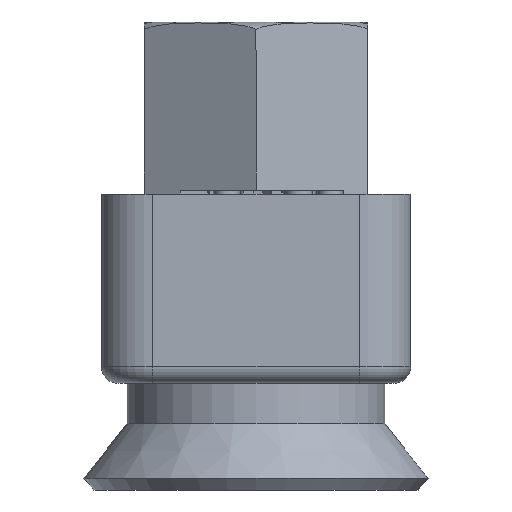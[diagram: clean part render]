
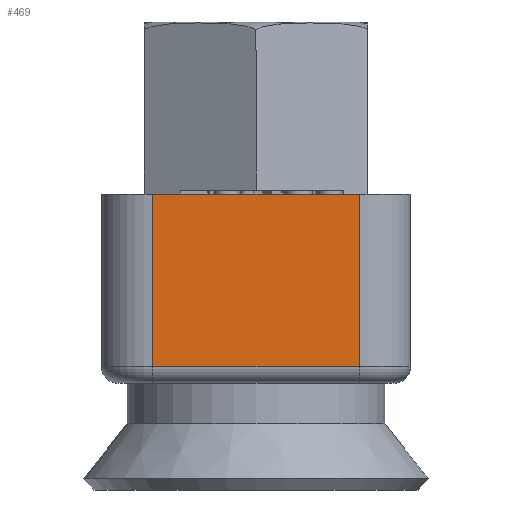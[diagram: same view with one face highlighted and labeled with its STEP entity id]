
A CAD part, left-side view. The second image highlights one B-rep face of the part: STEP entity #469.
In plain terms, the highlighted planar face has unit normal (-1, 0, 0).
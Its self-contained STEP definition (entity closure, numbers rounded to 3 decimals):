
#469 = ADVANCED_FACE( '', ( #986 ), #987, .F. );
#986 = FACE_OUTER_BOUND( '', #1617, .T. );
#987 = PLANE( '', #1618 );
#1617 = EDGE_LOOP( '', ( #3157, #3158, #3159, #3160 ) );
#1618 = AXIS2_PLACEMENT_3D( '', #3161, #3162, #3163 );
#3157 = ORIENTED_EDGE( '', *, *, #4014, .T. );
#3158 = ORIENTED_EDGE( '', *, *, #4020, .T. );
#3159 = ORIENTED_EDGE( '', *, *, #3911, .F. );
#3160 = ORIENTED_EDGE( '', *, *, #4075, .F. );
#3161 = CARTESIAN_POINT( '', ( -29., 6., -0.9 ) );
#3162 = DIRECTION( '', ( 1., 0., 0. ) );
#3163 = DIRECTION( '', ( 0., 0., -1. ) );
#3911 = EDGE_CURVE( '', #4682, #4683, #4684, .T. );
#4014 = EDGE_CURVE( '', #4827, #4286, #4828, .T. );
#4020 = EDGE_CURVE( '', #4286, #4683, #4834, .T. );
#4075 = EDGE_CURVE( '', #4827, #4682, #4900, .T. );
#4286 = VERTEX_POINT( '', #5241 );
#4682 = VERTEX_POINT( '', #6332 );
#4683 = VERTEX_POINT( '', #6333 );
#4684 = LINE( '', #6334, #6335 );
#4827 = VERTEX_POINT( '', #6663 );
#4828 = LINE( '', #6664, #6665 );
#4834 = LINE( '', #6672, #6673 );
#4900 = LINE( '', #6843, #6844 );
#5241 = CARTESIAN_POINT( '', ( -29., 6., -10.9 ) );
#6332 = CARTESIAN_POINT( '', ( -29., -6., -0.9 ) );
#6333 = CARTESIAN_POINT( '', ( -29., -6., -10.9 ) );
#6334 = CARTESIAN_POINT( '', ( -29., -6., -0.9 ) );
#6335 = VECTOR( '', #7258, 1000. );
#6663 = CARTESIAN_POINT( '', ( -29., 6., -0.9 ) );
#6664 = CARTESIAN_POINT( '', ( -29., 6., -0.9 ) );
#6665 = VECTOR( '', #7330, 1000. );
#6672 = CARTESIAN_POINT( '', ( -29., 6., -10.9 ) );
#6673 = VECTOR( '', #7338, 1000. );
#6843 = CARTESIAN_POINT( '', ( -29., 6., -0.9 ) );
#6844 = VECTOR( '', #7367, 1000. );
#7258 = DIRECTION( '', ( 0., 0., -1. ) );
#7330 = DIRECTION( '', ( 0., 0., -1. ) );
#7338 = DIRECTION( '', ( 0., -1., 0. ) );
#7367 = DIRECTION( '', ( 0., -1., 0. ) );
